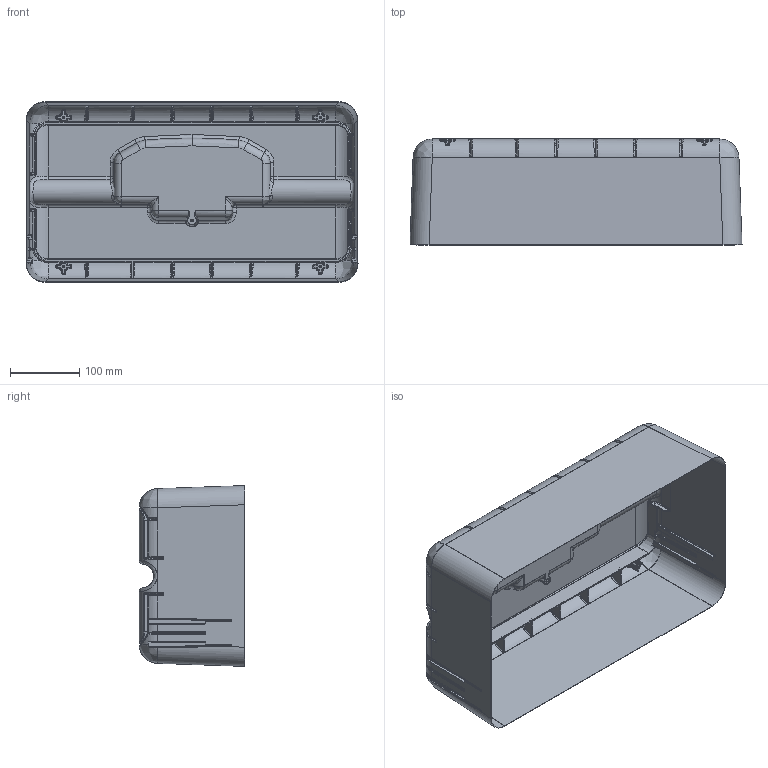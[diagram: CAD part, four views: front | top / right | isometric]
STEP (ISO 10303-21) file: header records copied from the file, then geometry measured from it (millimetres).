
FILE_DESCRIPTION (( 'STEP AP214' ), '1' );
FILE_NAME ('1461-931T-CLR Top PID file.STEP', '2010-02-16T16:57:35', ( ' ' ), ( ' ' ), 'SwSTEP 2.0', 'SolidWorks 2007', '' );
FILE_SCHEMA (( 'AUTOMOTIVE_DESIGN' ));
Products named in the file (1): 1461-931T-CLR Top PID file
Bounding box: 481.07 x 153.23 x 262 mm (x, y, z)
Volume: 262169.6 mm3; surface area: 818891.2 mm2
Topology: 1 solids, 1 shells, 1687 faces, 4249 edges, 2525 vertices
Faces by surface type: bspline 763, cylinder 401, plane 395, cone 128
Entity records: 160935 total; most frequent: CARTESIAN_POINT 129373, ORIENTED_EDGE 8398, EDGE_CURVE 4199, DIRECTION 3907, VERTEX_POINT 2525, B_SPLINE_CURVE_WITH_KNOTS 2519, EDGE_LOOP 1698, ADVANCED_FACE 1687
